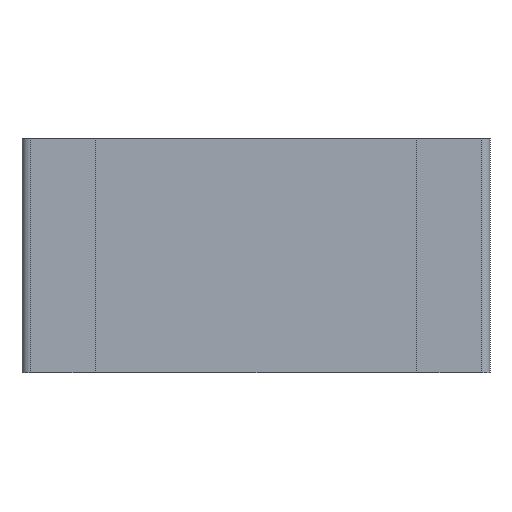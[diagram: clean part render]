
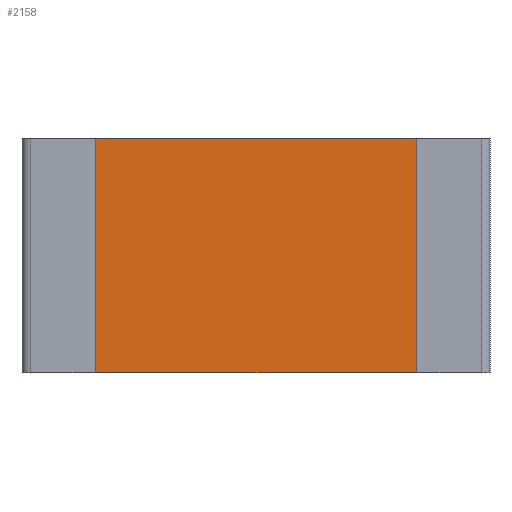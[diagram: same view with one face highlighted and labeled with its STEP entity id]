
A CAD part, front view. The second image highlights one B-rep face of the part: STEP entity #2158.
In plain terms, the highlighted planar face has unit normal (0, -1, 0).
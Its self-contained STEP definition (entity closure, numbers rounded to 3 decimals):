
#64 = VERTEX_POINT ( 'NONE', #2268 ) ;
#210 = VERTEX_POINT ( 'NONE', #2280 ) ;
#259 = AXIS2_PLACEMENT_3D ( 'NONE', #1400, #1405, #1406 ) ;
#260 = EDGE_CURVE ( 'NONE', #2982, #2987, #719, .T. ) ;
#363 = EDGE_CURVE ( 'NONE', #210, #64, #783, .T. ) ;
#364 = EDGE_CURVE ( 'NONE', #210, #2982, #780, .T. ) ;
#365 = EDGE_CURVE ( 'NONE', #2987, #64, #786, .T. ) ;
#681 = EDGE_LOOP ( 'NONE', ( #2784, #2783, #2782, #2781 ) ) ;
#719 = LINE ( 'NONE', #2306, #721 ) ;
#721 = VECTOR ( 'NONE', #2307, 1000. ) ;
#780 = LINE ( 'NONE', #2396, #787 ) ;
#783 = LINE ( 'NONE', #2390, #785 ) ;
#785 = VECTOR ( 'NONE', #2391, 1000. ) ;
#786 = LINE ( 'NONE', #2402, #789 ) ;
#787 = VECTOR ( 'NONE', #2401, 1000. ) ;
#789 = VECTOR ( 'NONE', #2403, 1000. ) ;
#1094 = FACE_OUTER_BOUND ( 'NONE', #681, .T. ) ;
#1399 = PLANE ( 'NONE',  #259 ) ;
#1400 = CARTESIAN_POINT ( 'NONE',  ( -1.54, 0.04, 3.925 ) ) ;
#1405 = DIRECTION ( 'NONE',  ( 0., 1., 0. ) ) ;
#1406 = DIRECTION ( 'NONE',  ( -1., 0., 0. ) ) ;
#2113 = CARTESIAN_POINT ( 'NONE',  ( 1.54, 0.04, 0.8 ) ) ;
#2123 = CARTESIAN_POINT ( 'NONE',  ( 1.54, 0.04, -0.8 ) ) ;
#2158 = ADVANCED_FACE ( 'NONE', ( #1094 ), #1399, .F. ) ;
#2268 = CARTESIAN_POINT ( 'NONE',  ( -1.54, 0.04, -0.8 ) ) ;
#2280 = CARTESIAN_POINT ( 'NONE',  ( -1.54, 0.04, 0.8 ) ) ;
#2306 = CARTESIAN_POINT ( 'NONE',  ( 1.54, 0.04, 3.925 ) ) ;
#2307 = DIRECTION ( 'NONE',  ( 0., 0., -1. ) ) ;
#2390 = CARTESIAN_POINT ( 'NONE',  ( -1.54, 0.04, 3.925 ) ) ;
#2391 = DIRECTION ( 'NONE',  ( 0., 0., -1. ) ) ;
#2396 = CARTESIAN_POINT ( 'NONE',  ( -1.54, 0.04, 0.8 ) ) ;
#2401 = DIRECTION ( 'NONE',  ( 1., 0., 0. ) ) ;
#2402 = CARTESIAN_POINT ( 'NONE',  ( -1.54, 0.04, -0.8 ) ) ;
#2403 = DIRECTION ( 'NONE',  ( -1., 0., 0. ) ) ;
#2781 = ORIENTED_EDGE ( 'NONE', *, *, #260, .F. ) ;
#2782 = ORIENTED_EDGE ( 'NONE', *, *, #365, .F. ) ;
#2783 = ORIENTED_EDGE ( 'NONE', *, *, #363, .T. ) ;
#2784 = ORIENTED_EDGE ( 'NONE', *, *, #364, .F. ) ;
#2982 = VERTEX_POINT ( 'NONE', #2113 ) ;
#2987 = VERTEX_POINT ( 'NONE', #2123 ) ;
